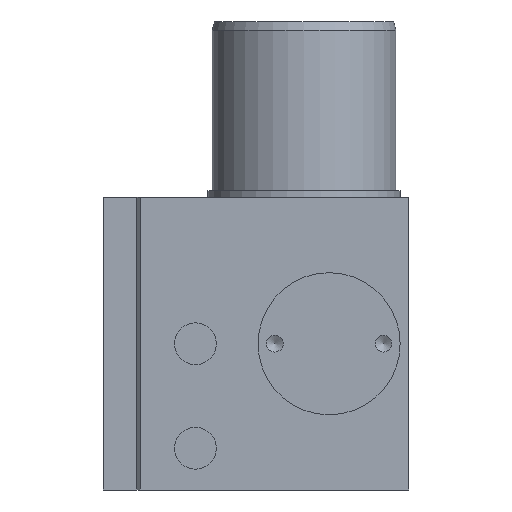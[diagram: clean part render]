
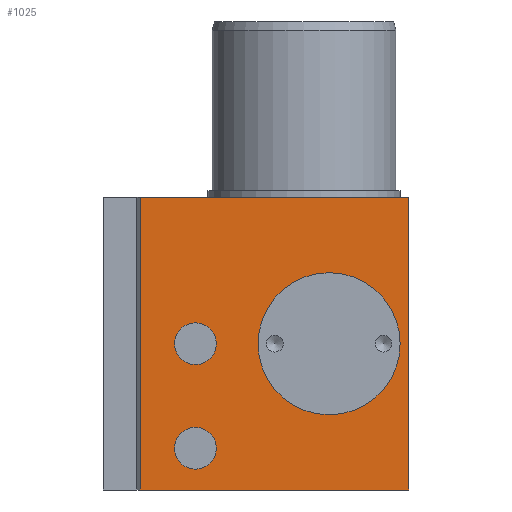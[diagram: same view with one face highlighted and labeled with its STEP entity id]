
A CAD part, left-side view. The second image highlights one B-rep face of the part: STEP entity #1025.
In plain terms, the highlighted planar face has unit normal (-1, 0, 0) as drawn and (0, 0, -1) by its records, which use the part's own axes.
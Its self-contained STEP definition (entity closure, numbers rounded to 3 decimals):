
#186=CARTESIAN_POINT('',(8.5,13.0,-37.5));
#187=VERTEX_POINT('',#186);
#188=CARTESIAN_POINT('',(0.,13.0,-37.5));
#189=DIRECTION('',(0.0,0.0,1.0));
#190=DIRECTION('',(-1.0,0.0,0.0));
#191=AXIS2_PLACEMENT_3D('',#188,#189,#190);
#192=CIRCLE('',#191,8.5);
#193=EDGE_CURVE('',#187,#187,#192,.T.);
#568=CARTESIAN_POINT('',(2.5,29.,-37.5));
#569=VERTEX_POINT('',#568);
#570=CARTESIAN_POINT('',(0.0,29.,-37.5));
#571=DIRECTION('',(0.0,0.0,1.0));
#572=DIRECTION('',(-1.0,0.0,0.0));
#573=AXIS2_PLACEMENT_3D('',#570,#571,#572);
#574=CIRCLE('',#573,2.5);
#575=EDGE_CURVE('',#569,#569,#574,.T.);
#642=CARTESIAN_POINT('',(15.0,29.,-37.5));
#643=VERTEX_POINT('',#642);
#644=CARTESIAN_POINT('',(12.5,29.,-37.5));
#645=DIRECTION('',(0.0,0.0,1.0));
#646=DIRECTION('',(-1.0,0.0,0.0));
#647=AXIS2_PLACEMENT_3D('',#644,#645,#646);
#648=CIRCLE('',#647,2.5);
#649=EDGE_CURVE('',#643,#643,#648,.T.);
#758=CARTESIAN_POINT('',(-17.5,35.6,-37.5));
#759=VERTEX_POINT('',#758);
#766=CARTESIAN_POINT('',(-17.5,3.5,-37.5));
#767=VERTEX_POINT('',#766);
#768=CARTESIAN_POINT('',(-17.5,3.5,-37.5));
#769=DIRECTION('',(0.0,1.0,0.0));
#770=VECTOR('',#769,32.1);
#771=LINE('',#768,#770);
#772=EDGE_CURVE('',#767,#759,#771,.T.);
#974=CARTESIAN_POINT('',(17.5,35.6,-37.5));
#975=VERTEX_POINT('',#974);
#982=CARTESIAN_POINT('',(-17.5,35.6,-37.5));
#983=DIRECTION('',(1.0,0.0,0.0));
#984=VECTOR('',#983,35.0);
#985=LINE('',#982,#984);
#986=EDGE_CURVE('',#759,#975,#985,.T.);
#993=CARTESIAN_POINT('',(0.0,35.6,-37.5));
#994=DIRECTION('',(0.0,0.0,-1.0));
#995=DIRECTION('',(-1.0,0.0,0.0));
#996=AXIS2_PLACEMENT_3D('',#993,#994,#995);
#997=PLANE('',#996);
#998=CARTESIAN_POINT('',(17.5,3.5,-37.5));
#999=VERTEX_POINT('',#998);
#1000=CARTESIAN_POINT('',(17.5,35.6,-37.5));
#1001=DIRECTION('',(0.0,-1.0,0.0));
#1002=VECTOR('',#1001,32.1);
#1003=LINE('',#1000,#1002);
#1004=EDGE_CURVE('',#975,#999,#1003,.T.);
#1005=ORIENTED_EDGE('',*,*,#1004,.T.);
#1006=CARTESIAN_POINT('',(-17.5,3.5,-37.5));
#1007=DIRECTION('',(1.0,0.0,0.0));
#1008=VECTOR('',#1007,35.0);
#1009=LINE('',#1006,#1008);
#1010=EDGE_CURVE('',#767,#999,#1009,.T.);
#1011=ORIENTED_EDGE('',*,*,#1010,.F.);
#1012=ORIENTED_EDGE('',*,*,#772,.T.);
#1013=ORIENTED_EDGE('',*,*,#986,.T.);
#1014=EDGE_LOOP('',(#1005,#1011,#1012,#1013));
#1015=FACE_OUTER_BOUND('',#1014,.T.);
#1016=ORIENTED_EDGE('',*,*,#193,.T.);
#1017=EDGE_LOOP('',(#1016));
#1018=FACE_BOUND('',#1017,.T.);
#1019=ORIENTED_EDGE('',*,*,#575,.T.);
#1020=EDGE_LOOP('',(#1019));
#1021=FACE_BOUND('',#1020,.T.);
#1022=ORIENTED_EDGE('',*,*,#649,.T.);
#1023=EDGE_LOOP('',(#1022));
#1024=FACE_BOUND('',#1023,.T.);
#1025=ADVANCED_FACE('',(#1015,#1018,#1021,#1024),#997,.T.);
